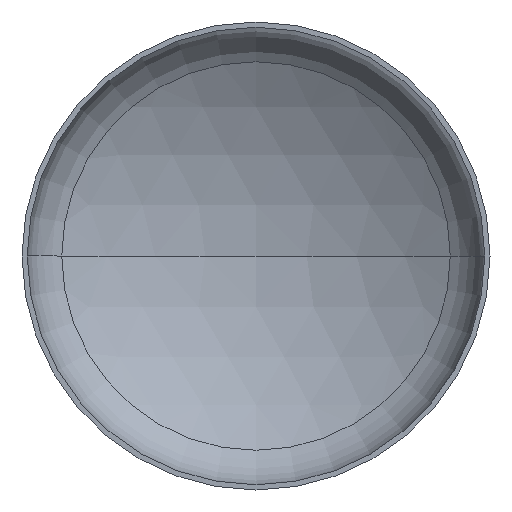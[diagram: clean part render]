
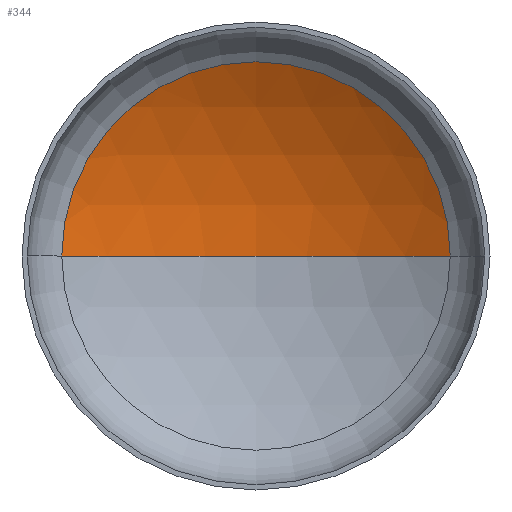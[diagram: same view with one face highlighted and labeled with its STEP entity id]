
A CAD part, front view. The second image highlights one B-rep face of the part: STEP entity #344.
In plain terms, the highlighted spherical face has radius 1280 mm.
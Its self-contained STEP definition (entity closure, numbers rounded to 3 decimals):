
#11 = EDGE_LOOP ( 'NONE', ( #31, #147, #101 ) ) ;
#14 = VERTEX_POINT ( 'NONE', #292 ) ;
#19 = AXIS2_PLACEMENT_3D ( 'NONE', #111, #391, #399 ) ;
#26 = AXIS2_PLACEMENT_3D ( 'NONE', #214, #376, #169 ) ;
#30 = AXIS2_PLACEMENT_3D ( 'NONE', #408, #274, #276 ) ;
#31 = ORIENTED_EDGE ( 'NONE', *, *, #378, .F. ) ;
#83 = VERTEX_POINT ( 'NONE', #296 ) ;
#99 = AXIS2_PLACEMENT_3D ( 'NONE', #280, #115, #299 ) ;
#101 = ORIENTED_EDGE ( 'NONE', *, *, #341, .T. ) ;
#111 = CARTESIAN_POINT ( 'NONE',  ( 0., -829.792, 0. ) ) ;
#115 = DIRECTION ( 'NONE',  ( 0., 0., -1. ) ) ;
#126 = CIRCLE ( 'NONE', #26, 1280. ) ;
#147 = ORIENTED_EDGE ( 'NONE', *, *, #381, .T. ) ;
#161 = FACE_OUTER_BOUND ( 'NONE', #11, .T. ) ;
#169 = DIRECTION ( 'NONE',  ( 1., 0., 0. ) ) ;
#214 = CARTESIAN_POINT ( 'NONE',  ( 0., -829.792, 0. ) ) ;
#268 = CIRCLE ( 'NONE', #99, 1280. ) ;
#274 = DIRECTION ( 'NONE',  ( 0., -1., 0. ) ) ;
#276 = DIRECTION ( 'NONE',  ( 1., 0., 0. ) ) ;
#279 = VERTEX_POINT ( 'NONE', #286 ) ;
#280 = CARTESIAN_POINT ( 'NONE',  ( 0., -829.792, 0. ) ) ;
#286 = CARTESIAN_POINT ( 'NONE',  ( -664.116, 264.443, 0. ) ) ;
#292 = CARTESIAN_POINT ( 'NONE',  ( 0., 450.208, 0. ) ) ;
#296 = CARTESIAN_POINT ( 'NONE',  ( 664.116, 264.443, 0. ) ) ;
#299 = DIRECTION ( 'NONE',  ( -1., 0., 0. ) ) ;
#340 = SPHERICAL_SURFACE ( 'NONE', #19, 1280. ) ;
#341 = EDGE_CURVE ( 'NONE', #83, #279, #402, .T. ) ;
#344 = ADVANCED_FACE ( 'NONE', ( #161 ), #340, .F. ) ;
#376 = DIRECTION ( 'NONE',  ( 0., 0., 1. ) ) ;
#378 = EDGE_CURVE ( 'NONE', #14, #279, #126, .T. ) ;
#381 = EDGE_CURVE ( 'NONE', #14, #83, #268, .T. ) ;
#391 = DIRECTION ( 'NONE',  ( 0., 0., -1. ) ) ;
#399 = DIRECTION ( 'NONE',  ( -1., 0., 0. ) ) ;
#402 = CIRCLE ( 'NONE', #30, 664.116 ) ;
#408 = CARTESIAN_POINT ( 'NONE',  ( 0., 264.443, 0. ) ) ;
